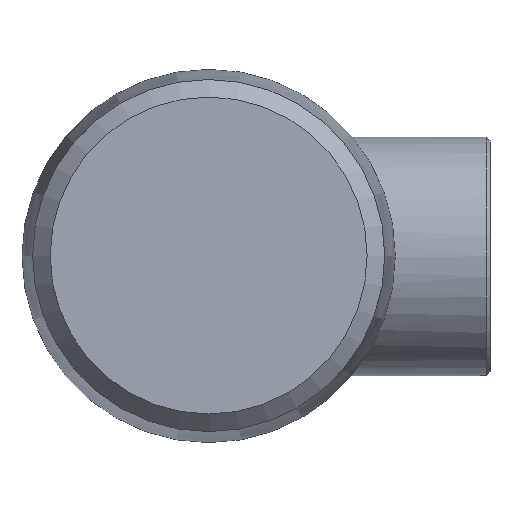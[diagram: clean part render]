
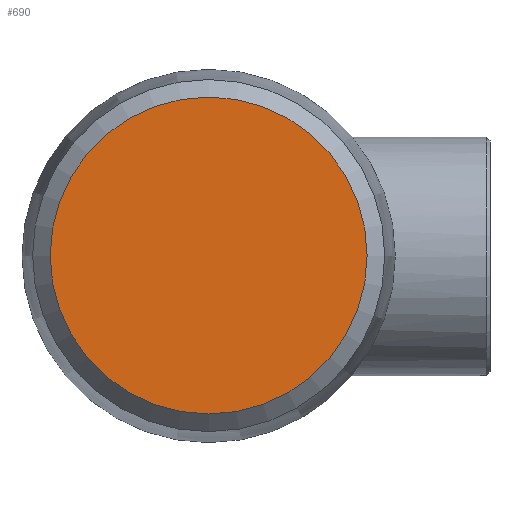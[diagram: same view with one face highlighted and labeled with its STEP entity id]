
A CAD part, top view. The second image highlights one B-rep face of the part: STEP entity #690.
In plain terms, the highlighted planar face has unit normal (0, 0, 1).
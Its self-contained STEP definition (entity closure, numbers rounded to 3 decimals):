
#48=PLANE('',#775);
#188=FACE_OUTER_BOUND('',#237,.T.);
#237=EDGE_LOOP('',(#602));
#284=CIRCLE('',#776,16.054);
#355=VERTEX_POINT('',#1276);
#448=EDGE_CURVE('',#355,#355,#284,.T.);
#602=ORIENTED_EDGE('',*,*,#448,.F.);
#690=ADVANCED_FACE('',(#188),#48,.T.);
#775=AXIS2_PLACEMENT_3D('',#1275,#964,#965);
#776=AXIS2_PLACEMENT_3D('',#1277,#966,#967);
#964=DIRECTION('center_axis',(0.,0.,1.));
#965=DIRECTION('ref_axis',(1.,0.,0.));
#966=DIRECTION('center_axis',(0.,0.,-1.));
#967=DIRECTION('ref_axis',(-1.,0.,0.));
#1275=CARTESIAN_POINT('Origin',(-8.027,0.,47.));
#1276=CARTESIAN_POINT('',(-16.054,0.,47.));
#1277=CARTESIAN_POINT('Origin',(0.,0.,47.));
